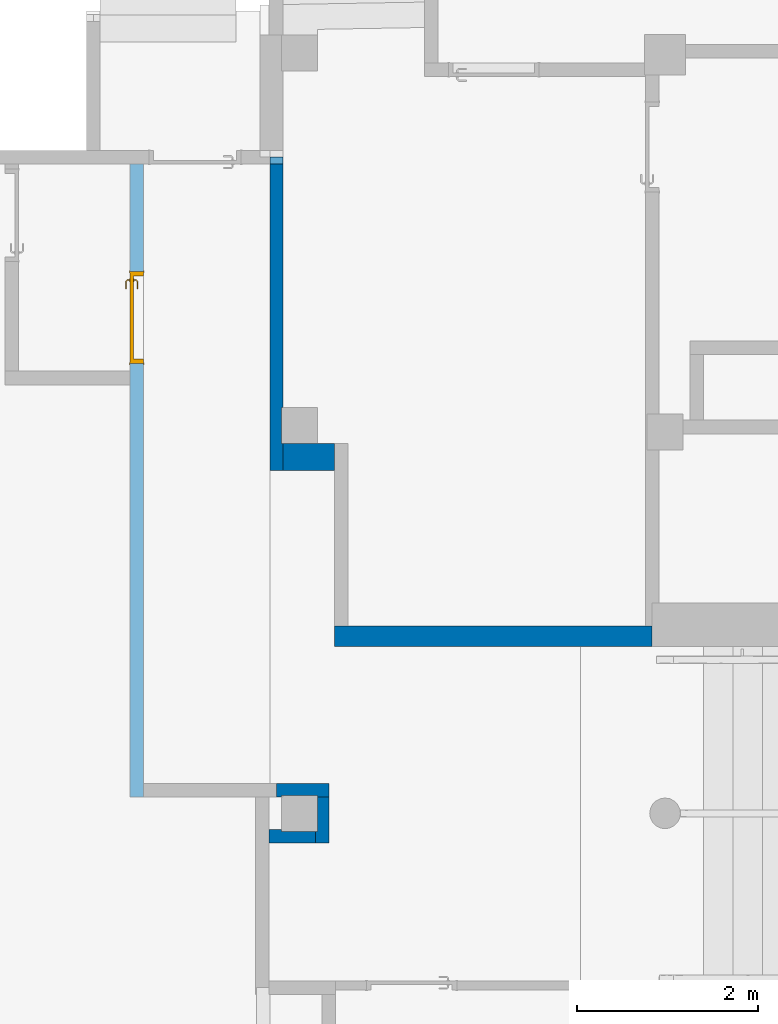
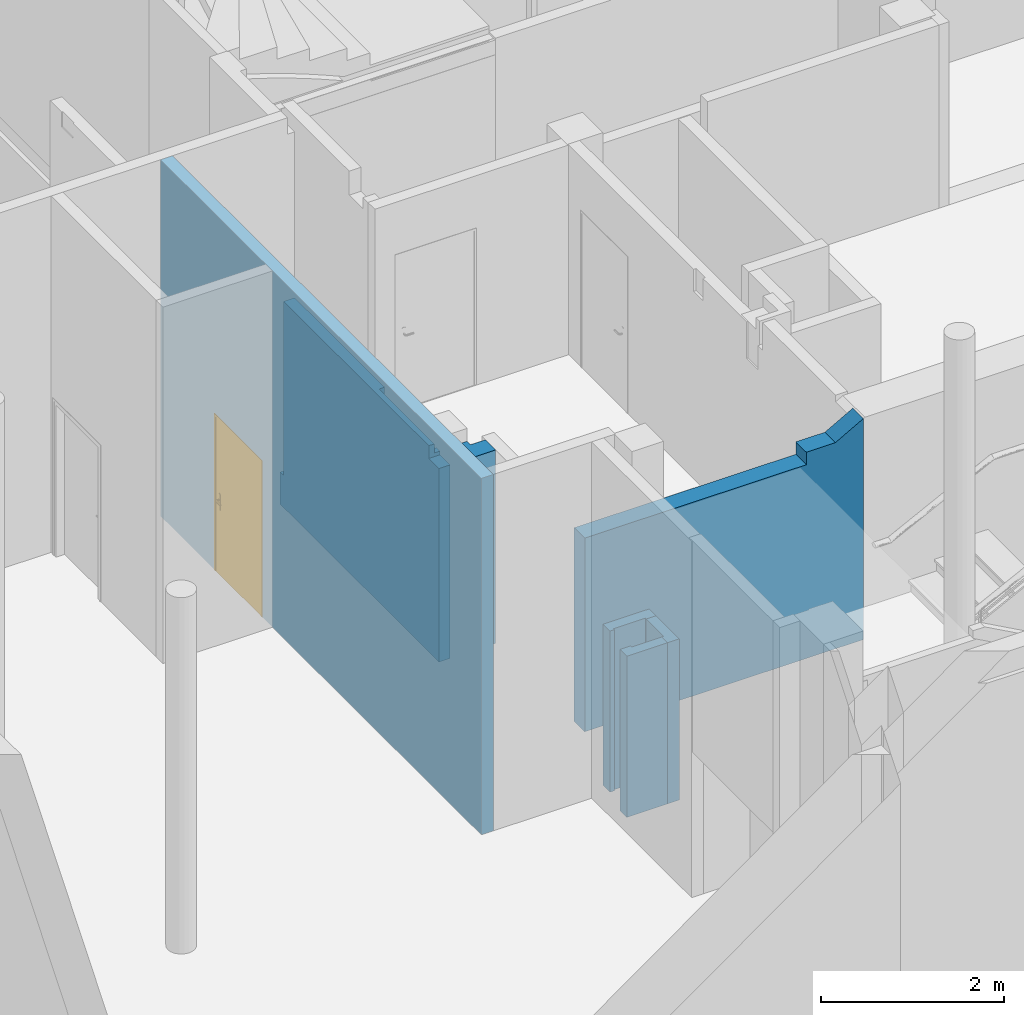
# One storey, part 20 of 39: 6 walls, 1 door, 2 openings, plus 1 element that does not belong to this part.
"""IFC4 building model written with IfcOpenShell, lengths in metres."""

import ifcopenshell
import ifcopenshell.guid

model = None  # the IFC model being written
_history = None  # IfcOwnerHistory: only IFC2X3 demands one
_inside = {}  # id of a spatial element -> (the spatial element, [elements in it])
_under = {}  # id of a project, library or spatial element -> (it, [spatial elements below it])
_declared = {}  # id of a project -> (the project, [libraries it declares])
_typed = {}  # id of a type object -> (the type object, [elements of that type])
_made_of = {}  # id of a material, layer set ... -> (it, [elements and type objects made of it])


def new_model(schema):
    """Start an empty IFC model of exactly this schema.

    Asked for "IFC4X3", IfcOpenShell would pick the latest addendum, in which some entities
    have other attributes; the version numbers below select the first issue.
    IFC2X3 requires an IfcOwnerHistory on every rooted entity: one is made here for all.
    """
    global model, _history
    if schema == "IFC4X3":
        model = ifcopenshell.file(schema_version=(4, 3, 0, 0))
    else:
        model = ifcopenshell.file(schema=schema)
    _inside.clear()
    _under.clear()
    _declared.clear()
    _typed.clear()
    _made_of.clear()
    _history = None
    if model.schema == "IFC2X3":
        org = make("IfcOrganization", Name="unknown")
        user = make(
            "IfcPersonAndOrganization",
            ThePerson=make("IfcPerson", FamilyName="unknown"),
            TheOrganization=org,
        )
        app = make(
            "IfcApplication",
            ApplicationDeveloper=org,
            Version="unknown",
            ApplicationFullName="unknown",
            ApplicationIdentifier="unknown",
        )
        _history = make(
            "IfcOwnerHistory",
            OwningUser=user,
            OwningApplication=app,
            ChangeAction="ADDED",
            CreationDate=0,
        )
    return model


def make(cls, **values):
    """One entity of the class cls with the attributes given. An attribute that is None is left unset."""
    return model.create_entity(
        cls, **{name: value for name, value in values.items() if value is not None}
    )


def entity(cls, *values):
    """Any entity or typed value of the class cls, its attributes in the order of the schema. None: left unset."""
    e = model.create_entity(cls)
    for i, value in enumerate(values):
        if value is not None:
            e[i] = value
    return e


def rooted(cls, **values):
    """An entity with a GlobalId (a new one), such as an element, a storey or a relation."""
    return make(cls, GlobalId=ifcopenshell.guid.new(), OwnerHistory=_history, **values)


def si_unit(unit_type, name, prefix=None):
    """IfcSIUnit, for example si_unit("LENGTHUNIT", "METRE", prefix="MILLI")."""
    return make("IfcSIUnit", UnitType=unit_type, Prefix=prefix, Name=name)


def converted_unit(unit_type, name, factor, base, dimensions=None, offset=None):
    """IfcConversionBasedUnit, such as the inch: factor (a typed value) times the base unit."""
    return make(
        "IfcConversionBasedUnit"
        if offset is None
        else "IfcConversionBasedUnitWithOffset",
        ConversionOffset=offset,
        Dimensions=None
        if dimensions is None
        else entity("IfcDimensionalExponents", *dimensions),
        UnitType=unit_type,
        Name=name,
        ConversionFactor=make(
            "IfcMeasureWithUnit", ValueComponent=factor, UnitComponent=base
        ),
    )


def derived_unit(unit_type, elements):
    """IfcDerivedUnit: a product of units, each with its exponent."""
    return make(
        "IfcDerivedUnit",
        Elements=[
            make("IfcDerivedUnitElement", Unit=unit, Exponent=power)
            for unit, power in elements
        ],
        UnitType=unit_type,
    )


def assignment(units):
    """IfcUnitAssignment: the units of a project."""
    return None if units is None else make("IfcUnitAssignment", Units=units)


def point(xyz):
    """IfcCartesianPoint."""
    return None if xyz is None else make("IfcCartesianPoint", Coordinates=xyz)


def direction(xyz):
    """IfcDirection."""
    return None if xyz is None else make("IfcDirection", DirectionRatios=xyz)


def frame(location, z_axis=None, x_axis=None):
    """IfcAxis2Placement3D, a coordinate frame: its origin and axes. An axis left out is left unset."""
    return make(
        "IfcAxis2Placement3D",
        Location=point(location),
        Axis=direction(z_axis),
        RefDirection=direction(x_axis),
    )


def origin():
    """The frame at (0, 0, 0) with its axes left unset."""
    return frame((0.0, 0.0, 0.0))


def place(relative_to, where):
    """IfcLocalPlacement: puts the frame where relative to a parent placement (None: the world)."""
    return make(
        "IfcLocalPlacement", PlacementRelTo=relative_to, RelativePlacement=where
    )


def context(
    kind, dimensions, precision=None, world=None, true_north=None, identifier=None
):
    """IfcGeometricRepresentationContext, for example the 3D "Model" context."""
    return make(
        "IfcGeometricRepresentationContext",
        ContextIdentifier=identifier,
        ContextType=kind,
        CoordinateSpaceDimension=dimensions,
        Precision=precision,
        WorldCoordinateSystem=world,
        TrueNorth=true_north,
    )


def subcontext(parent, identifier, kind, view, scale=None):
    """IfcGeometricRepresentationSubContext, for example "Body" below "Model"."""
    return make(
        "IfcGeometricRepresentationSubContext",
        ContextIdentifier=identifier,
        ContextType=kind,
        ParentContext=parent,
        TargetScale=scale,
        TargetView=view,
    )


def project(units=None, contexts=None):
    """IfcProject with its units and contexts."""
    return rooted(
        "IfcProject",
        Name="project",
        RepresentationContexts=contexts,
        UnitsInContext=assignment(units),
    )


def spatial(cls, under=None, at=None, **own):
    """A site, building, storey or space (cls), placed at a placement, below another one or the project."""
    s = rooted(cls, ObjectPlacement=at, **own)
    if under is not None:
        _under.setdefault(under.id(), (under, []))[1].append(s)
    return s


def point_list(points):
    """IfcCartesianPointList2D or 3D."""
    cls = (
        "IfcCartesianPointList2D" if len(points[0]) == 2 else "IfcCartesianPointList3D"
    )
    return make(cls, CoordList=points)


def indexed_curve(points, segments=None, self_intersect=None):
    """IfcIndexedPolyCurve: lines and arcs through numbered points (the first is 1)."""
    return make(
        "IfcIndexedPolyCurve",
        Points=point_list(points),
        Segments=segments,
        SelfIntersect=self_intersect,
    )


def outline(outer, holes=None, kind="AREA"):
    """IfcArbitraryClosedProfileDef: a profile drawn as a closed curve; with holes, ...WithVoids."""
    if holes is None:
        return make("IfcArbitraryClosedProfileDef", ProfileType=kind, OuterCurve=outer)
    return make(
        "IfcArbitraryProfileDefWithVoids",
        ProfileType=kind,
        OuterCurve=outer,
        InnerCurves=holes,
    )


def extrude(swept, where, along, depth):
    """IfcExtrudedAreaSolid: the profile swept, set in the frame where, extruded along a direction by depth."""
    return make(
        "IfcExtrudedAreaSolid",
        SweptArea=swept,
        Position=where,
        ExtrudedDirection=direction(along),
        Depth=depth,
    )


def polygons(points, faces, closed=None, point_numbers=None):
    """IfcPolygonalFaceSet: a face is its outer loop, then its inner loops; points numbered from 1."""
    made = []
    for loops in faces:
        if len(loops) == 1:
            made.append(make("IfcIndexedPolygonalFace", CoordIndex=loops[0]))
        else:
            made.append(
                make(
                    "IfcIndexedPolygonalFaceWithVoids",
                    CoordIndex=loops[0],
                    InnerCoordIndices=loops[1:],
                )
            )
    return make(
        "IfcPolygonalFaceSet",
        Coordinates=point_list(points),
        Closed=closed,
        Faces=made,
        PnIndex=point_numbers,
    )


def shape(context_of_items, identifier, shape_type, items):
    """IfcShapeRepresentation: the items that make up one representation, for example the "Body"."""
    return make(
        "IfcShapeRepresentation",
        ContextOfItems=context_of_items,
        RepresentationIdentifier=identifier,
        RepresentationType=shape_type,
        Items=items,
    )


def source(mapping_origin, context_of_items, identifier, shape_type, items):
    """IfcRepresentationMap: a shape defined once, which mapped items show again and again."""
    return make(
        "IfcRepresentationMap",
        MappingOrigin=mapping_origin,
        MappedRepresentation=shape(context_of_items, identifier, shape_type, items),
    )


def transform(
    local_origin,
    x_axis=None,
    y_axis=None,
    z_axis=None,
    scale=None,
    scale2=None,
    scale3=None,
    uniform=True,
):
    """IfcCartesianTransformationOperator3D, or its non-uniform kind. x_axis, y_axis, z_axis: its Axis1, 2, 3."""
    if uniform:
        return make(
            "IfcCartesianTransformationOperator3D",
            Axis1=direction(x_axis),
            Axis2=direction(y_axis),
            LocalOrigin=point(local_origin),
            Scale=scale,
            Axis3=direction(z_axis),
        )
    return make(
        "IfcCartesianTransformationOperator3DnonUniform",
        Axis1=direction(x_axis),
        Axis2=direction(y_axis),
        LocalOrigin=point(local_origin),
        Scale=scale,
        Axis3=direction(z_axis),
        Scale2=scale2,
        Scale3=scale3,
    )


def mapped(mapping_source, mapping_target):
    """IfcMappedItem: shows the shape of a source again, moved by a transform."""
    return make(
        "IfcMappedItem", MappingSource=mapping_source, MappingTarget=mapping_target
    )


def material(Name=None, Category=None):
    """IfcMaterial."""
    return make("IfcMaterial", Name=Name, Category=Category)


def material_list(materials):
    """IfcMaterialList."""
    return make("IfcMaterialList", Materials=materials)


def layer(
    of_material, thickness, ventilated=None, Name=None, Category=None, Priority=None
):
    """IfcMaterialLayer: one layer of a wall or slab, of a material (None: an air gap)."""
    return make(
        "IfcMaterialLayer",
        Material=of_material,
        LayerThickness=thickness,
        IsVentilated=ventilated,
        Name=Name,
        Category=Category,
        Priority=Priority,
    )


def layer_set(layers, Name=None):
    """IfcMaterialLayerSet."""
    return make("IfcMaterialLayerSet", MaterialLayers=layers, LayerSetName=Name)


def made_of(thing, what):
    """Note that an element or type object is made of a material, layer set ...; save() writes the relation."""
    if what is not None:
        _made_of.setdefault(what.id(), (what, []))[1].append(thing)
    return thing


def type_object(cls, material=None, **own):
    """A type object (cls), such as IfcWallType, which elements share."""
    return made_of(rooted(cls, **own), material)


def type_shapes(of_type, sources):
    """Give a type object the sources (RepresentationMaps) that its elements show as mapped items."""
    of_type.RepresentationMaps = sources


def element(
    cls,
    number,
    at=None,
    inside=None,
    cuts=None,
    type_object=None,
    material=None,
    context=None,
    identifier="Body",
    shape_type=None,
    held_by="IfcProductDefinitionShape",
    body=None,
    shapes=None,
    **own,
):
    """One element of the class cls, such as IfcWall. Its Tag is "e" and its number.

    at: its placement. inside: the storey or other place that contains it. cuts: it is an
    opening in that element (IfcRelVoidsElement). A single representation is given by context,
    identifier, shape_type and body (its items); several are given by shapes. held_by: the class
    of the entity that holds the representations. save() writes the other relations.
    """
    e = rooted(cls, Tag="e%d" % number, ObjectPlacement=at, **own)
    if body is not None:
        shapes = [shape(context, identifier, shape_type, body)]
    if shapes is not None:
        e.Representation = make(held_by, Representations=shapes)
    if inside is not None:
        _inside.setdefault(inside.id(), (inside, []))[1].append(e)
    if cuts is not None:
        rooted(
            "IfcRelVoidsElement", RelatingBuildingElement=cuts, RelatedOpeningElement=e
        )
    if type_object is not None:
        _typed.setdefault(type_object.id(), (type_object, []))[1].append(e)
    return made_of(e, material)


def fill(opening, filler):
    """IfcRelFillsElement: the door or window that sits in an opening."""
    return rooted(
        "IfcRelFillsElement",
        RelatingOpeningElement=opening,
        RelatedBuildingElement=filler,
    )


def aggregate(whole, parts):
    """IfcRelAggregates: a whole, such as a stair, and the parts it consists of."""
    return rooted("IfcRelAggregates", RelatingObject=whole, RelatedObjects=parts)


def save(model, path):
    """Write the relations noted so far, then the file.

    IfcRelAggregates (storeys below a building ...), IfcRelContainedInSpatialStructure (elements
    in a storey), IfcRelDefinesByType, IfcRelAssociatesMaterial and IfcRelDeclares: one each for
    every whole, place, type object, material and project.
    """
    for whole, parts in _under.values():
        aggregate(whole, parts)
    for where, things in _inside.values():
        rooted(
            "IfcRelContainedInSpatialStructure",
            RelatedElements=things,
            RelatingStructure=where,
        )
    for kind, things in _typed.values():
        rooted("IfcRelDefinesByType", RelatedObjects=things, RelatingType=kind)
    for what, things in _made_of.values():
        rooted("IfcRelAssociatesMaterial", RelatedObjects=things, RelatingMaterial=what)
    for by, libraries in _declared.values():
        rooted("IfcRelDeclares", RelatingContext=by, RelatedDefinitions=libraries)
    model.write(path)


model = new_model("IFC4")

# Units and contexts
model_context = context("Model", 3, precision=1e-05, world=origin(), true_north=direction((6.12303176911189e-17, 1.0)))
body_context = subcontext(model_context, "Body", "Model", "MODEL_VIEW")
ifc_project = project(units=[si_unit("LENGTHUNIT", "METRE"), si_unit("AREAUNIT", "SQUARE_METRE"), si_unit("VOLUMEUNIT", "CUBIC_METRE"), converted_unit("PLANEANGLEUNIT", "DEGREE", entity("IfcRatioMeasure", 0.0174532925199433), si_unit("PLANEANGLEUNIT", "RADIAN"), dimensions=[0, 0, 0, 0, 0, 0, 0]), si_unit("MASSUNIT", "GRAM", prefix="KILO"), derived_unit("MASSDENSITYUNIT", [(si_unit("MASSUNIT", "GRAM", prefix="KILO"), 1), (si_unit("LENGTHUNIT", "METRE"), -3)]), derived_unit("MOMENTOFINERTIAUNIT", [(si_unit("LENGTHUNIT", "METRE"), 4)]), si_unit("TIMEUNIT", "SECOND"), si_unit("FREQUENCYUNIT", "HERTZ"), si_unit("THERMODYNAMICTEMPERATUREUNIT", "DEGREE_CELSIUS"), derived_unit("THERMALTRANSMITTANCEUNIT", [(si_unit("MASSUNIT", "GRAM", prefix="KILO"), 1), (si_unit("THERMODYNAMICTEMPERATUREUNIT", "KELVIN"), -1), (si_unit("TIMEUNIT", "SECOND"), -3)]), derived_unit("VOLUMETRICFLOWRATEUNIT", [(si_unit("LENGTHUNIT", "METRE"), 3), (si_unit("TIMEUNIT", "SECOND"), -1)]), si_unit("ELECTRICCURRENTUNIT", "AMPERE"), si_unit("ELECTRICVOLTAGEUNIT", "VOLT"), si_unit("POWERUNIT", "WATT"), si_unit("FORCEUNIT", "NEWTON", prefix="KILO"), si_unit("ILLUMINANCEUNIT", "LUX"), si_unit("LUMINOUSFLUXUNIT", "LUMEN"), si_unit("LUMINOUSINTENSITYUNIT", "CANDELA"), derived_unit("USERDEFINED", [(si_unit("MASSUNIT", "GRAM", prefix="KILO"), -1), (si_unit("LENGTHUNIT", "METRE"), -2), (si_unit("TIMEUNIT", "SECOND"), 3), (si_unit("LUMINOUSFLUXUNIT", "LUMEN"), 1)]), derived_unit("LINEARVELOCITYUNIT", [(si_unit("LENGTHUNIT", "METRE"), 1), (si_unit("TIMEUNIT", "SECOND"), -1)]), si_unit("PRESSUREUNIT", "PASCAL"), derived_unit("USERDEFINED", [(si_unit("LENGTHUNIT", "METRE"), -2), (si_unit("MASSUNIT", "GRAM", prefix="KILO"), 1), (si_unit("TIMEUNIT", "SECOND"), -2)]), derived_unit("LINEARFORCEUNIT", [(si_unit("MASSUNIT", "GRAM", prefix="KILO"), 1), (si_unit("LENGTHUNIT", "METRE"), 1), (si_unit("TIMEUNIT", "SECOND"), -2), (si_unit("LENGTHUNIT", "METRE"), -1)]), derived_unit("PLANARFORCEUNIT", [(si_unit("MASSUNIT", "GRAM", prefix="KILO"), 1), (si_unit("LENGTHUNIT", "METRE"), 1), (si_unit("TIMEUNIT", "SECOND"), -2), (si_unit("LENGTHUNIT", "METRE"), -2)])], contexts=[model_context])

# Site, building, storey
site_placement = place(None, origin())
site = spatial("IfcSite", under=ifc_project, at=site_placement, Name="Default", CompositionType="ELEMENT")
building_placement = place(site_placement, origin())
building = spatial("IfcBuilding", under=site, at=building_placement, Name="HOTEL CONSULAIRE BOULOGNE SUR MER", CompositionType="ELEMENT")
storey_placement = place(building_placement, frame((0.0, 0.0, -5.02343668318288)))
storey = spatial("IfcBuildingStorey", under=building, at=storey_placement, Name="SS3", CompositionType="ELEMENT", Elevation=-5.02343668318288)

# Wall, opening, door
ifc_material_1 = material(Name="Mur par défaut", Category="Divers")
ifc_layer_1 = layer(ifc_material_1, 0.15, Name="Mur par défaut", Category="Divers")
ifc_layer_set_1 = layer_set([ifc_layer_1], Name="Mur de base:Générique - Int. 150 mm")
wall_type_1 = type_object("IfcWallType", Name="Mur de base:Générique - Int. 150 mm", PredefinedType="NOTDEFINED", material=ifc_layer_set_1)
wall_1_placement = place(storey_placement, frame((-7.07898856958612, -16.8245842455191, 0.0), z_axis=(0.0, 0.0, 1.0), x_axis=(0.0, -1.0, 0.0)))
wall_1 = element("IfcWall", 1, at=wall_1_placement, inside=storey, type_object=wall_type_1, material=ifc_layer_set_1, Name="Mur de base:Générique - Int. 150 mm", ObjectType="Mur de base:Générique - Int. 150 mm", PredefinedType="NOTDEFINED", context=body_context, shape_type="Tessellation", body=[
    polygons([(7.01, 0.075, 0.0), (7.01, -0.0749999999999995, 0.0), (2.44566577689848, -0.0749999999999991, 0.0), (2.29566577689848, -0.0749999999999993, 0.0), (2.21266577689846, -0.0749999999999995, 0.0), (2.21266577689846, 0.075, 0.0), (6.86, 0.0749999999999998, 0.0), (7.01, -0.0749999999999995, 4.75343668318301), (2.44566577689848, -0.0750000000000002, 4.75343668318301), (2.29566577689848, -0.0749999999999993, 4.75343668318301), (0.0, -0.0749999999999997, 4.75343668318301), (2.16573425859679e-15, -0.0749999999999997, 0.0), (1.19266577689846, -0.075, 0.0), (1.19266577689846, -0.075, 2.07500000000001), (2.21266577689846, -0.0749999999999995, 2.07500000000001), (2.16573425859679e-15, 0.0749999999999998, 4.75343668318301), (6.86, 0.0749999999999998, 4.75343668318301), (7.01, 0.075, 4.75343668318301), (2.21266577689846, 0.075, 2.07500000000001), (1.19266577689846, 0.0749999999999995, 2.07500000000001), (1.19266577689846, 0.0749999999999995, 0.0), (2.16573425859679e-15, 0.0749999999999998, 0.0)], [[[4, 5, 6, 7, 1, 2, 3]], [[13, 12, 22, 21]], [[19, 15, 14, 20]], [[14, 15, 5, 4, 3, 2, 8, 9, 10, 11, 12, 13]], [[1, 7, 6, 19, 20, 21, 22, 16, 17, 18]], [[11, 10, 9, 8, 18, 17, 16]], [[22, 12, 11, 16]], [[6, 5, 15, 19]], [[8, 2, 1, 18]], [[20, 14, 13, 21]]], closed=True),
])
opening_1_placement = place(wall_1_placement, frame((2.21266577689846, 0.0749999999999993, 0.0)))
opening_1 = element("IfcOpeningElement", 2, at=opening_1_placement, cuts=wall_1, Name="Int. Simple:Ext 0.95X2.04:1", ObjectType="Opening", PredefinedType="OPENING", context=body_context, shape_type="SweptSolid", body=[
    extrude(outline(indexed_curve([(0.0, 2.16573425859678e-15), (2.07500000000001, 2.16573425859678e-15), (2.07500000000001, 1.02), (0.0, 1.02), (0.0, 2.16573425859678e-15)], self_intersect=False)), frame((0.0, 0.0, 0.0), z_axis=(0.0, -1.0, 0.0), x_axis=(0.0, 0.0, 1.0)), (0.0, 0.0, 1.0), 0.15),
])
ifc_material_2 = material(Name="Acier inoxydable", Category="Métal")
ifc_material_list = material_list([ifc_material_2, ifc_material_2, ifc_material_2, ifc_material_2])
door_type = type_object("IfcDoorType", Name="Int. Simple:Ext 0.95X2.04", OperationType="NOTDEFINED", PredefinedType="DOOR", material=ifc_material_list)
shared_shape = source(origin(), body_context, "Body", "Tessellation", [
    polygons([(0.0750000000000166, -0.00500000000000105, 0.870000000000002), (0.0846472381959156, -0.00500000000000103, 0.866003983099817), (0.0950000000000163, -0.00500000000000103, 0.86464101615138), (0.105352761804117, -0.00500000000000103, 0.866003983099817), (0.115000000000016, -0.00500000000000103, 0.870000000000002), (0.115000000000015, -0.00500000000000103, 1.08), (0.105352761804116, -0.00500000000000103, 1.08399601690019), (0.0950000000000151, -0.00500000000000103, 1.08535898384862), (0.0846472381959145, -0.00500000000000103, 1.08399601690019), (0.0750000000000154, -0.00500000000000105, 1.08), (0.0750000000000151, -1.04902753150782e-15, 0.870000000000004), (0.0750000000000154, -1.04902753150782e-15, 1.08), (0.0846472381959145, -1.04902753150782e-15, 1.08399601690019), (0.0950000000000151, -1.04056763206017e-15, 1.08535898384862), (0.105352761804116, -1.04056763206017e-15, 1.08399601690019), (0.115000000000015, -1.03210773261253e-15, 1.08), (0.115000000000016, -1.03210773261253e-15, 0.870000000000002), (0.105352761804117, -1.04056763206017e-15, 0.866003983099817), (0.0950000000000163, -1.04056763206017e-15, 0.86464101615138), (0.0846472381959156, -1.04902753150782e-15, 0.866003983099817)], [[[4, 5, 6, 7, 8, 9, 10, 1, 2, 3]], [[15, 16, 17, 18, 19, 20, 11, 12, 13, 14]], [[11, 20, 2, 1]], [[2, 20, 19, 3]], [[19, 18, 4, 3]], [[18, 17, 5, 4]], [[6, 5, 17, 16]], [[16, 15, 7, 6]], [[7, 15, 14, 8]], [[14, 13, 9, 8]], [[13, 12, 10, 9]], [[1, 10, 12, 11]]], closed=True),
    polygons([(0.115000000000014, 0.0399999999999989, 1.08), (0.105352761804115, 0.0399999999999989, 1.08399601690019), (0.0950000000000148, 0.0399999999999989, 1.08535898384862), (0.0846472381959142, 0.0399999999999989, 1.08399601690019), (0.0750000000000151, 0.0399999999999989, 1.08), (0.0750000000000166, 0.0399999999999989, 0.870000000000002), (0.0846472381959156, 0.0399999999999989, 0.866003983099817), (0.0950000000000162, 0.0399999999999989, 0.86464101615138), (0.105352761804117, 0.0399999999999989, 0.866003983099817), (0.115000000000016, 0.0399999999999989, 0.870000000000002), (0.115000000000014, 0.044999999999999, 1.08), (0.115000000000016, 0.044999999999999, 0.870000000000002), (0.105352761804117, 0.0449999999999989, 0.866003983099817), (0.0950000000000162, 0.0449999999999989, 0.86464101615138), (0.0846472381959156, 0.0449999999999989, 0.866003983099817), (0.075000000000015, 0.0449999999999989, 0.870000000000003), (0.0750000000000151, 0.0449999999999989, 1.08), (0.0846472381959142, 0.0449999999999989, 1.08399601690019), (0.0950000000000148, 0.0449999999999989, 1.08535898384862), (0.105352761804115, 0.0449999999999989, 1.08399601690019)], [[[9, 10, 1, 2, 3, 4, 5, 6, 7, 8]], [[20, 11, 12, 13, 14, 15, 16, 17, 18, 19]], [[11, 20, 2, 1]], [[2, 20, 19, 3]], [[19, 18, 4, 3]], [[18, 17, 5, 4]], [[6, 5, 17, 16]], [[16, 15, 7, 6]], [[7, 15, 14, 8]], [[14, 13, 9, 8]], [[13, 12, 10, 9]], [[1, 10, 12, 11]]], closed=True),
    polygons([(0.0889999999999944, -0.00500000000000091, 1.007), (0.0929747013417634, -0.00500000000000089, 1.00778044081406), (0.0970252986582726, -0.00500000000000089, 1.00778044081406), (0.101000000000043, -0.00500000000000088, 1.00699999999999), (0.101000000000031, -0.00500000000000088, 0.993000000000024), (0.0970252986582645, -0.00500000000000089, 0.992219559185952), (0.0929747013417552, -0.00500000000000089, 0.99221955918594), (0.0889999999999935, -0.00500000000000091, 0.992999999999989), (0.0889999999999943, -0.0326509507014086, 1.007), (0.0929747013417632, -0.0310045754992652, 1.00778044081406), (0.0970252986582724, -0.0293267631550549, 1.00778044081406), (0.101000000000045, -0.0276803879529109, 1.007), (0.101000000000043, -0.0276803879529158, 0.993000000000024), (0.0970252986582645, -0.0293267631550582, 0.992219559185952), (0.0929747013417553, -0.0310045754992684, 0.99221955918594), (0.0889999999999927, -0.0326509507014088, 0.992999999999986), (0.107377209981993, -0.051028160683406, 1.007), (0.109023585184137, -0.0470534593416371, 1.00778044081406), (0.110701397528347, -0.0430028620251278, 1.00778044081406), (0.112347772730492, -0.0390281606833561, 1.007), (0.112347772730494, -0.0390281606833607, 0.993000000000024), (0.110701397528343, -0.0430028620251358, 0.992219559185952), (0.109023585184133, -0.0470534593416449, 0.99221955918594), (0.107377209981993, -0.0510281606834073, 0.992999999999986), (0.195018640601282, -0.0510281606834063, 1.00699999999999), (0.195018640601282, -0.051028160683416, 0.992999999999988), (0.195018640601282, -0.0470534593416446, 0.99221955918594), (0.195018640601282, -0.0430028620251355, 0.992219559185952), (0.195018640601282, -0.0390281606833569, 0.993000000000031), (0.195018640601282, -0.0390281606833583, 1.007), (0.195018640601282, -0.0430028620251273, 1.00778044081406), (0.195018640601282, -0.0470534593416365, 1.00778044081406), (0.147307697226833, -0.0510281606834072, 1.007), (0.1528600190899, -0.045028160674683, 1.0078786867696), (0.153683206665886, -0.039028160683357, 1.007), (0.147307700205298, -0.0510281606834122, 0.992999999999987), (0.152860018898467, -0.0450281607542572, 0.992121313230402), (0.153683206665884, -0.0390281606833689, 0.993000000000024)], [[[2, 3, 4, 5, 6, 7, 8, 1]], [[21, 20, 35, 30, 29, 38]], [[9, 10, 2, 1]], [[10, 18, 19, 11, 3, 2]], [[11, 12, 4, 3]], [[5, 4, 12, 13]], [[26, 27, 28, 29, 30, 31, 32, 25]], [[13, 14, 6, 5]], [[14, 22, 23, 15, 7, 6]], [[15, 16, 8, 7]], [[1, 8, 16, 9]], [[17, 18, 10, 9]], [[19, 20, 12, 11]], [[13, 12, 20, 21]], [[21, 22, 14, 13]], [[23, 24, 16, 15]], [[9, 16, 24, 17]], [[33, 32, 34]], [[25, 32, 33]], [[18, 17, 33]], [[34, 35, 19]], [[20, 19, 35]], [[35, 31, 30]], [[32, 31, 34]], [[31, 35, 34]], [[18, 33, 34]], [[18, 34, 19]], [[38, 28, 37]], [[36, 37, 27]], [[21, 38, 22]], [[38, 29, 28]], [[26, 36, 27]], [[24, 23, 36]], [[36, 23, 37]], [[23, 22, 37]], [[22, 38, 37]], [[27, 37, 28]], [[17, 24, 36, 26, 25, 33]]], closed=True),
    polygons([(0.101000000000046, 0.0449999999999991, 0.993000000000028), (0.101000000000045, 0.0449999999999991, 1.007), (0.0970252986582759, 0.0449999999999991, 1.00778044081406), (0.0929747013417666, 0.0449999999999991, 1.00778044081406), (0.0889999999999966, 0.0449999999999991, 1.007), (0.0889999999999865, 0.0449999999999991, 0.992999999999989), (0.0929747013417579, 0.0449999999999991, 0.99221955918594), (0.0970252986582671, 0.0449999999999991, 0.992219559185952), (0.101000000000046, 0.067485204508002, 0.993000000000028), (0.101000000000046, 0.0674852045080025, 1.007), (0.0970252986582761, 0.0691315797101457, 1.00778044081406), (0.0929747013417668, 0.070809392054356, 1.00778044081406), (0.0889999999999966, 0.0724557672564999, 1.007), (0.0889999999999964, 0.0724557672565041, 0.992999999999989), (0.0929747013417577, 0.0708093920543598, 0.99221955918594), (0.0970252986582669, 0.0691315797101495, 0.992219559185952), (0.112485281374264, 0.0789704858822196, 0.993000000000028), (0.112485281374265, 0.0789704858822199, 1.007), (0.110838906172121, 0.0829451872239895, 1.00778044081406), (0.109161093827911, 0.0869957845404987, 1.00778044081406), (0.107514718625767, 0.090970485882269, 1.007), (0.10751471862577, 0.090970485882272, 0.992999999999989), (0.109161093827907, 0.0869957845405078, 0.99221955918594), (0.110838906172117, 0.0829451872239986, 0.992219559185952), (0.19504578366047, 0.0789704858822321, 0.993000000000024), (0.19504578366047, 0.0829451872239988, 0.992219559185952), (0.19504578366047, 0.086995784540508, 0.99221955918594), (0.19504578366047, 0.0909704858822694, 0.992999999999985), (0.19504578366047, 0.0909704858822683, 1.007), (0.19504578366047, 0.0869957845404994, 1.00778044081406), (0.19504578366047, 0.0829451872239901, 1.00778044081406), (0.19504578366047, 0.0789704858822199, 1.007), (0.147445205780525, 0.0909704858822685, 1.007), (0.15294234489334, 0.0849704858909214, 1.0078786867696), (0.153765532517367, 0.0789704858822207, 1.007), (0.147445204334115, 0.0909704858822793, 0.992999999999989), (0.152942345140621, 0.0849704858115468, 0.992121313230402), (0.153765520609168, 0.0789704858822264, 0.993000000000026)], [[[4, 5, 6, 7, 8, 1, 2, 3]], [[18, 17, 38, 25, 32, 35]], [[2, 1, 9, 10]], [[25, 26, 27, 28, 29, 30, 31, 32]], [[10, 11, 3, 2]], [[11, 19, 20, 12, 4, 3]], [[12, 13, 5, 4]], [[6, 5, 13, 14]], [[14, 15, 7, 6]], [[15, 23, 24, 16, 8, 7]], [[16, 9, 1, 8]], [[10, 9, 17, 18]], [[18, 19, 11, 10]], [[20, 21, 13, 12]], [[14, 13, 21, 22]], [[22, 23, 15, 14]], [[24, 17, 9, 16]], [[35, 31, 34]], [[33, 34, 30]], [[18, 35, 19]], [[35, 32, 31]], [[29, 33, 30]], [[21, 20, 33]], [[33, 20, 34]], [[20, 19, 34]], [[19, 35, 34]], [[30, 34, 31]], [[21, 33, 29, 28, 36, 22]], [[36, 27, 37]], [[28, 27, 36]], [[23, 22, 36]], [[37, 38, 24]], [[17, 24, 38]], [[38, 26, 25]], [[27, 26, 37]], [[26, 38, 37]], [[23, 36, 37]], [[23, 37, 24]]], closed=True),
    polygons([(0.0350000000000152, 0.04, 2.04), (0.985000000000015, 0.04, 2.04), (0.985000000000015, 0.04, 0.0), (0.0350000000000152, 0.04, 0.0), (0.0350000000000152, 5.07593966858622e-17, 2.04), (0.0350000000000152, 5.07593966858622e-17, 0.0), (0.985000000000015, 5.07593966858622e-17, 0.0), (0.985000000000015, 5.07593966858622e-17, 2.04)], [[[4, 1, 2, 3]], [[7, 8, 5, 6]], [[2, 1, 5, 8]], [[3, 2, 8, 7]], [[4, 3, 7, 6]], [[1, 4, 6, 5]]], closed=True),
    polygons([(2.70716782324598e-16, 1.69197988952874e-17, 0.0), (2.70716782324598e-16, 0.150000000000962, 0.0), (0.0500000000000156, 0.150000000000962, 0.0), (0.0500000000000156, 0.0400000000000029, 0.0), (0.0350000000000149, 0.0400000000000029, 0.0), (0.0350000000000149, 1.69197988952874e-17, 0.0), (2.70716782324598e-16, 1.69197988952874e-17, 2.07500000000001), (2.70716782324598e-16, 0.150000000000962, 2.07500000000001), (1.02, 0.150000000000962, 2.07500000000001), (1.02, 0.150000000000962, 0.0), (0.96999999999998, 0.150000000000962, -4.03399441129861e-24), (0.969999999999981, 0.150000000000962, 2.025), (0.0500000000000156, 0.150000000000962, 2.02499999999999), (0.0500000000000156, 0.0400000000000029, 2.02499999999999), (0.96999999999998, 0.0400000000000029, 2.02499999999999), (0.96999999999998, 0.0400000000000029, -1.38450562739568e-24), (0.984999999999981, 0.0400000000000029, -4.10371668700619e-24), (0.984999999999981, 0.0400000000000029, 2.04), (0.035000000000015, 0.0400000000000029, 2.04), (0.035000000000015, 1.69197988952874e-17, 2.04), (0.984999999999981, 1.69197988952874e-17, 2.04), (0.984999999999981, 1.69197988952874e-17, -8.70076159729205e-25), (1.02, 1.69197988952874e-17, 1.5819591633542e-24), (1.02, 1.69197988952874e-17, 2.07500000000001)], [[[5, 6, 1, 2, 3, 4]], [[11, 10, 23, 22, 17, 16]], [[14, 13, 12, 15]], [[20, 19, 18, 21]], [[2, 1, 7, 8]], [[15, 12, 11, 16]], [[21, 18, 17, 22]], [[3, 2, 8, 9, 10, 11, 12, 13]], [[4, 3, 13, 14]], [[6, 5, 19, 20]], [[9, 24, 23, 10]], [[16, 17, 18, 19, 5, 4, 14, 15]], [[22, 23, 24, 7, 1, 6, 20, 21]], [[8, 7, 24, 9]]], closed=True),
    polygons([(0.0150000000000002, 0.150000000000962, 0.0), (-0.0149999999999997, 0.150000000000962, 0.0), (-0.0149999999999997, 0.155000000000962, 0.0), (0.0150000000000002, 0.155000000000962, 0.0), (0.0150000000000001, 0.150000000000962, 2.06000000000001), (1.005, 0.150000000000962, 2.06000000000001), (1.005, 0.150000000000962, 7.44135206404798e-25), (1.035, 0.150000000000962, 3.21152985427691e-24), (1.035, 0.150000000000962, 2.09000000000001), (-0.0149999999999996, 0.150000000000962, 2.09000000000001), (-0.0149999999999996, 0.155000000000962, 2.09000000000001), (1.035, 0.155000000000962, 2.09000000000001), (1.035, 0.155000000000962, 4.82535527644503e-25), (1.005, 0.155000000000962, 5.65531304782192e-24), (1.005, 0.155000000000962, 2.06000000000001), (0.0150000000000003, 0.155000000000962, 2.06000000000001)], [[[1, 2, 3, 4]], [[14, 13, 8, 7]], [[5, 16, 15, 6]], [[7, 8, 9, 10, 2, 1, 5, 6]], [[3, 2, 10, 11]], [[6, 15, 14, 7]], [[4, 3, 11, 12, 13, 14, 15, 16]], [[1, 4, 16, 5]], [[12, 9, 8, 13]], [[11, 10, 9, 12]]], closed=True),
    polygons([(1.005, -0.00499999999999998, 0.0), (1.005, 1.69197988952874e-17, 0.0), (1.035, 1.69197988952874e-17, 0.0), (1.035, -0.00499999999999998, 0.0), (0.0150000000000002, -0.00499999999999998, 0.0), (-0.0149999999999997, -0.00499999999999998, 0.0), (-0.0149999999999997, 1.69197988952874e-17, 0.0), (0.0150000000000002, 1.69197988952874e-17, 0.0), (0.0150000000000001, -0.00499999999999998, 2.06000000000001), (1.005, -0.00499999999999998, 2.06000000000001), (1.035, -0.00499999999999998, 2.09000000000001), (-0.0149999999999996, -0.00499999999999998, 2.09000000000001), (-0.0149999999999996, 1.69197988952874e-17, 2.09000000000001), (1.035, 1.69197988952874e-17, 2.09000000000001), (1.005, 1.69197988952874e-17, 2.06000000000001), (0.0150000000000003, 1.69197988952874e-17, 2.06000000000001)], [[[2, 3, 4, 1]], [[6, 7, 8, 5]], [[9, 16, 15, 10]], [[1, 4, 11, 12, 6, 5, 9, 10]], [[7, 6, 12, 13]], [[10, 15, 2, 1]], [[8, 7, 13, 14, 3, 2, 15, 16]], [[5, 8, 16, 9]], [[14, 11, 4, 3]], [[13, 12, 11, 14]]], closed=True),
])
type_shapes(door_type, [shared_shape])
door_placement = place(opening_1_placement, frame((-1.02, -0.15, 0.0)))
door = element("IfcDoor", 3, at=door_placement, inside=storey, type_object=door_type, material=ifc_material_2, Name="Int. Simple:Ext 0.95X2.04", ObjectType="Int. Simple:Ext 0.95X2.04", OperationType="NOTDEFINED", OverallHeight=2.07500000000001, OverallWidth=1.02, PredefinedType="DOOR", context=body_context, shape_type="MappedRepresentation", body=[
    mapped(shared_shape, transform((0.0, 0.0, 0.0), scale=1.0)),
])
fill(opening_1, door)

# Walls
wall_2_placement = place(storey_placement, frame((-5.02520574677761, -23.8345842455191, 0.0), z_axis=(0.0, 0.0, 1.0), x_axis=(0.0, -1.0, 0.0)))
element("IfcWall", 4, at=wall_2_placement, inside=storey, type_object=wall_type_1, material=ifc_layer_set_1, Name="Mur de base:Générique - Int. 150 mm", ObjectType="Mur de base:Générique - Int. 150 mm", PredefinedType="NOTDEFINED", context=body_context, shape_type="Tessellation", body=[
    polygons([(0.508000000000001, -0.0749999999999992, 0.0), (0.508000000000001, -0.0749999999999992, 2.14999999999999), (0.381325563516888, -0.0749999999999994, 2.14999999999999), (0.381325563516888, -0.0749999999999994, 0.0), (0.508000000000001, 0.0750000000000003, 0.0), (0.0, 0.0750000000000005, 0.0), (0.0, 0.0750000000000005, 2.14999999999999), (0.508000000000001, 0.0750000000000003, 2.14999999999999), (0.381325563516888, -0.0503023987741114, 0.0), (0.0, -0.050302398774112, 0.0), (0.0, -0.050302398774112, 2.14999999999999), (0.381325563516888, -0.0503023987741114, 2.14999999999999)], [[[3, 4, 1, 2]], [[10, 9, 12, 11]], [[8, 5, 6, 7]], [[9, 10, 6, 5, 1, 4]], [[12, 3, 2, 8, 7, 11]], [[6, 10, 11, 7]], [[9, 4, 3, 12]], [[2, 1, 5, 8]]], closed=True),
])
wall_3_placement = place(storey_placement, frame((-5.10020574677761, -24.2675842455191, 0.0), z_axis=(0.0, 0.0, 1.0), x_axis=(-1.0, 0.0, 0.0)))
element("IfcWall", 5, at=wall_3_placement, inside=storey, type_object=wall_type_1, material=ifc_layer_set_1, Name="Mur de base:Générique - Int. 150 mm", ObjectType="Mur de base:Générique - Int. 150 mm", PredefinedType="NOTDEFINED", context=body_context, shape_type="Tessellation", body=[
    polygons([(0.512000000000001, -0.0750000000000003, 0.0), (0.512000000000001, -0.0750000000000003, 2.14999999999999), (0.375302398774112, -0.0750000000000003, 2.14999999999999), (0.375302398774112, -0.0750000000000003, 0.0), (0.512000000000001, 0.0750000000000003, 0.0), (0.0, 0.0750000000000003, 0.0), (0.0, 0.0750000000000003, 2.14999999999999), (0.512000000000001, 0.0750000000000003, 2.14999999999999), (0.375302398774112, -0.0516744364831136, 0.0), (0.0, -0.0516744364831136, 0.0), (0.0, -0.0516744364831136, 2.14999999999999), (0.375302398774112, -0.0516744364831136, 2.14999999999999)], [[[3, 4, 1, 2]], [[10, 9, 12, 11]], [[8, 5, 6, 7]], [[9, 10, 6, 5, 1, 4]], [[12, 3, 2, 8, 7, 11]], [[6, 10, 11, 7]], [[4, 3, 12, 9]], [[1, 5, 8, 2]]], closed=True),
])
wall_4_placement = place(storey_placement, frame((-5.53198856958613, -23.7595842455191, 0.0)))
element("IfcWall", 6, at=wall_4_placement, inside=storey, type_object=wall_type_1, material=ifc_layer_set_1, Name="Mur de base:Générique - Int. 150 mm", ObjectType="Mur de base:Générique - Int. 150 mm", PredefinedType="NOTDEFINED", context=body_context, shape_type="Tessellation", body=[
    polygons([(0.581782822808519, -0.0750000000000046, 0.0), (0.581782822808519, -0.0750000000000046, 2.14999999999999), (0.456480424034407, -0.0750000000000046, 2.14999999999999), (0.456480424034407, -0.0750000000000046, 0.0), (-1.71425636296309e-16, -0.0750000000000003, 2.14999999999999), (-1.71425636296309e-16, -0.0750000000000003, 0.0), (0.0564804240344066, -0.0750000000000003, 0.0), (0.0564804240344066, -0.0750000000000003, 2.14999999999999), (0.581782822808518, 0.0749999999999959, 0.0), (2.78735570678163e-16, 0.0750000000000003, 0.0), (2.78735570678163e-16, 0.0750000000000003, 2.14999999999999), (0.581782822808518, 0.0749999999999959, 2.14999999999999), (0.456480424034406, -0.0563255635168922, 0.0), (0.0564804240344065, -0.0563255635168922, 0.0), (0.0564804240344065, -0.0563255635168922, 2.14999999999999), (0.456480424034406, -0.0563255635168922, 2.14999999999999)], [[[3, 4, 1, 2]], [[5, 6, 7, 8]], [[14, 13, 16, 15]], [[12, 9, 10, 11]], [[7, 6, 10, 9, 1, 4, 13, 14]], [[3, 2, 12, 11, 5, 8, 15, 16]], [[6, 5, 11, 10]], [[13, 4, 3, 16]], [[2, 1, 9, 12]], [[7, 14, 15, 8]]], closed=True),
])
ifc_layer_2 = layer(ifc_material_1, 0.3, Name="Mur par défaut", Category="Divers")
ifc_layer_set_2 = layer_set([ifc_layer_2], Name="Mur de base:Générique - Int. 300 mm")
wall_type_2 = type_object("IfcWallType", Name="Mur de base:Générique - Int. 300 mm", PredefinedType="NOTDEFINED", material=ifc_layer_set_2)
wall_5_placement = place(storey_placement, frame((-4.88777317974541, -20.0718053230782, -0.43), z_axis=(0.0, 0.0, 1.0), x_axis=(-1.0, 0.0, 0.0)))
element("IfcWall", 7, at=wall_5_placement, inside=storey, type_object=wall_type_2, material=ifc_layer_set_2, Name="Mur de base:Générique - Int. 300 mm", ObjectType="Mur de base:Générique - Int. 300 mm", PredefinedType="NOTDEFINED", context=body_context, shape_type="Tessellation", body=[
    polygons([(0.0, -0.150000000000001, 0.0), (0.574215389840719, -0.150000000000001, 0.0), (0.574215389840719, -0.150000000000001, 2.57999999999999), (0.187530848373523, -0.150000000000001, 2.57999999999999), (0.187530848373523, -0.150000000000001, 2.30999999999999), (0.0, -0.150000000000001, 2.30999999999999), (0.574215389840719, 0.150000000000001, 0.0), (1.08286712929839e-15, 0.150000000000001, 0.0), (1.08286712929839e-15, 0.150000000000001, 2.57999999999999), (0.574215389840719, 0.150000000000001, 2.57999999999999), (0.574215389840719, -0.14957399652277, 0.0), (0.0, -0.0735739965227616, 2.57999999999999), (0.187530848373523, -0.0735739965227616, 2.57999999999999), (0.574215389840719, -0.0735739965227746, 2.57999999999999), (1.08286712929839e-15, -0.0735739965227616, 2.30999999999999), (0.187530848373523, -0.0735739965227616, 2.30999999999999)], [[[5, 6, 1, 2, 3, 4]], [[13, 12, 15, 16]], [[10, 7, 8, 9]], [[2, 1, 8, 7, 11]], [[13, 4, 3, 14, 10, 9, 12]], [[16, 15, 6, 5]], [[1, 6, 15, 12, 9, 8]], [[13, 16, 5, 4]], [[14, 3, 2, 11, 7, 10]]], closed=True),
])
ifc_layer_3 = layer(ifc_material_1, 0.14, Name="Mur par défaut", Category="Divers")
ifc_layer_set_3 = layer_set([ifc_layer_3], Name="Mur de base:Générique - Int.140")
wall_type_3 = type_object("IfcWallType", Name="Mur de base:Générique - Int.140", PredefinedType="NOTDEFINED", material=ifc_layer_set_3)
wall_6_placement = place(storey_placement, frame((-5.53198856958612, -16.7495842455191, -0.43), z_axis=(0.0, 0.0, 1.0), x_axis=(0.0, -1.0, 0.0)))
element("IfcWall", 8, at=wall_6_placement, inside=storey, type_object=wall_type_3, material=ifc_layer_set_3, Name="Mur de base:Générique - Int.140", ObjectType="Mur de base:Générique - Int.140", PredefinedType="NOTDEFINED", context=body_context, shape_type="Tessellation", body=[
    polygons([(0.0, 0.0699999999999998, 0.0), (0.0, 0.0699999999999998, 0.43), (0.0750000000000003, 0.07, 0.43), (0.0750000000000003, 0.07, 2.74999999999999), (2.04095421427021, 0.0699999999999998, 2.74999999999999), (2.04095421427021, 0.0699999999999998, 2.62999999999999), (2.77264708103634, 0.0699999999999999, 2.62999999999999), (2.77264708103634, 0.0699999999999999, 2.30999999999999), (2.77264708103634, 0.0699999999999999, 0.0), (0.0, -0.0699999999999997, 0.0), (0.0750000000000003, -0.0699999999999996, 0.0), (3.47222107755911, -0.0699999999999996, 0.0), (3.47222107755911, -0.0699999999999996, 2.57999999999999), (3.24864708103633, -0.07, 2.57999999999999), (3.24864708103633, -0.07, 2.74999999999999), (3.16533011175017, -0.0700000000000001, 2.74999999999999), (0.0750000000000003, -0.0699999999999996, 2.74999999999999), (0.0750000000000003, -0.0699999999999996, 0.43), (0.0, -0.0699999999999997, 0.43), (0.0, -0.0699999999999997, 0.14), (3.47222107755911, 0.0699999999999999, 0.0), (3.17264708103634, 0.0699999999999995, 0.0), (3.17264708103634, 0.0699999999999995, 2.30999999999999), (3.17264708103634, 0.0699999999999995, 2.62999999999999), (3.24864708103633, 0.0699999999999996, 2.62999999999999), (3.24864708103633, 0.0699999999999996, 2.57999999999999), (3.47222107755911, 0.0699999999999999, 2.57999999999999), (2.77264708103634, 0.0564804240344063, 0.0), (3.17264708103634, 0.0564804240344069, 0.0), (0.0750000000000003, 0.00999999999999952, 2.74999999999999), (3.24864708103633, -7.54410921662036e-16, 2.74999999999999), (2.04095421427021, -5.04947653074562e-16, 2.74999999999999), (3.17264708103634, 0.0564804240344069, 2.62999999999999), (2.77264708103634, 0.0564804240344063, 2.62999999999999), (3.24864708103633, -7.54410921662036e-16, 2.62999999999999), (2.04095421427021, -5.04947653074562e-16, 2.62999999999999)], [[[6, 7, 8, 9, 1, 2, 3, 4, 5]], [[27, 21, 22, 23, 24, 25, 26]], [[29, 28, 34, 33]], [[31, 35, 36, 32]], [[10, 11, 12, 13, 14, 15, 16, 17, 18, 19, 20]], [[28, 29, 22, 21, 12, 11, 10, 1, 9]], [[16, 15, 31, 32, 5, 4, 30, 17]], [[19, 18, 3, 2]], [[13, 27, 26, 14]], [[34, 7, 6, 36, 35, 25, 24, 33]], [[20, 19, 2, 1, 10]], [[30, 4, 3, 18, 17]], [[23, 22, 29, 33, 24]], [[8, 7, 34, 28, 9]], [[13, 12, 21, 27]], [[35, 31, 15, 14, 26, 25]], [[32, 36, 6, 5]]], closed=True),
])

# Wall, opening
ifc_layer_4 = layer(ifc_material_1, 0.23, Name="Mur par défaut", Category="Divers")
ifc_layer_set_4 = layer_set([ifc_layer_4], Name="Mur de base:Générique - Int.230")
wall_type_4 = type_object("IfcWallType", Name="Mur de base:Générique - Int.230", PredefinedType="NOTDEFINED", material=ifc_layer_set_4)
wall_7_placement = place(storey_placement, frame((-4.88777317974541, -22.0542190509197, -0.43)))
wall_7 = element("IfcWall", 9, at=wall_7_placement, inside=storey, type_object=wall_type_4, material=ifc_layer_set_4, Name="Mur de base:Générique - Int.230", ObjectType="Mur de base:Générique - Int.230", PredefinedType="NOTDEFINED", context=body_context, shape_type="Tessellation", body=[
    polygons([(1.7496533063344e-16, -0.115, 0.0), (3.51561424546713, -0.115, 0.0), (3.51561424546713, -0.115, 2.74999999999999), (3.51561424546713, -0.115, 2.94840361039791), (3.16158152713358, -0.114999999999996, 2.74999999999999), (2.7200645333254, -0.115, 2.74999999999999), (2.7200645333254, -0.115, 2.58409746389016), (1.7496533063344e-16, -0.115, 2.58409746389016), (-6.02028361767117e-16, 0.115, 0.0), (-6.02028361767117e-16, 0.115, 2.57999999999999), (-6.02028361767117e-16, 0.115, 2.58409746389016), (2.7200645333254, 0.115, 2.58409746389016), (2.7200645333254, 0.115, 2.74999999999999), (3.16158152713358, 0.115000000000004, 2.74999999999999), (3.51561424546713, 0.115, 2.94840361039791), (3.51561424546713, 0.115, 2.90628343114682), (3.51561424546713, 0.115, 0.0), (3.44061424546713, 0.115, 0.0), (0.149999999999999, 0.115, 0.0)], [[[1, 2, 3, 4, 5, 6, 7, 8]], [[17, 18, 19, 9, 10, 11, 12, 13, 14, 15, 16]], [[2, 1, 9, 19, 18, 17]], [[3, 2, 17, 16, 15, 4]], [[8, 7, 12, 11]], [[6, 5, 14, 13]], [[10, 9, 1, 8, 11]], [[13, 12, 7, 6]], [[5, 4, 15, 14]]], closed=True),
])
opening_2_placement = place(wall_7_placement, origin())
element("IfcOpeningElement", 10, at=opening_2_placement, cuts=wall_7, Name="Mur de base:Générique - Int.230", ObjectType="Opening", PredefinedType="OPENING", context=body_context, shape_type="SweptSolid", body=[
    extrude(outline(indexed_curve([(-1.0650284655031, -0.113572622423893), (2.39481912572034, -0.113572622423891), (-0.310124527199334, 0.172837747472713), (-0.327593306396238, 0.00785746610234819), (-0.692072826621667, 0.0464500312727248), (-1.0650284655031, -0.113572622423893)], self_intersect=False)), frame((2.4684649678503, 0.115, 2.72331970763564), z_axis=(0.0, -1.0, 0.0), x_axis=(-0.994440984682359, 0.0, -0.105295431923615)), (0.0, 0.0, 1.0), 0.23),
])

save(model, "model.ifc")
